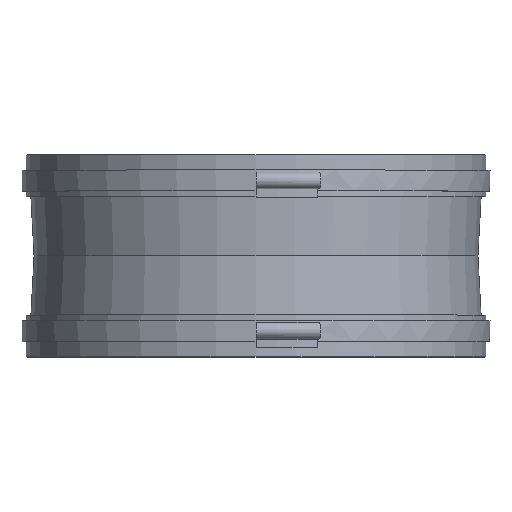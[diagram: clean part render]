
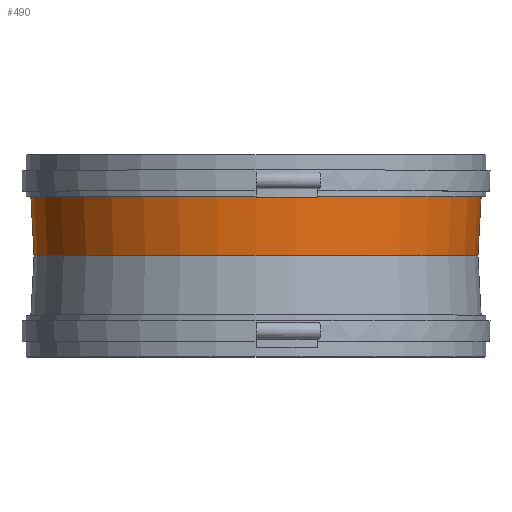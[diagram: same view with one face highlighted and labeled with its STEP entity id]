
A CAD part, top view. The second image highlights one B-rep face of the part: STEP entity #490.
In plain terms, the highlighted conical face has half-angle 3 degrees and reference radius 160.69 mm.
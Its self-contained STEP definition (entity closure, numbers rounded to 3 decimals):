
#17=CONICAL_SURFACE('',#570,160.69,3.);
#39=FACE_BOUND('',#151,.T.);
#93=FACE_OUTER_BOUND('',#150,.T.);
#150=EDGE_LOOP('',(#417));
#151=EDGE_LOOP('',(#418));
#218=CIRCLE('',#556,162.);
#223=CIRCLE('',#569,159.38);
#258=VERTEX_POINT('',#841);
#263=VERTEX_POINT('',#859);
#310=EDGE_CURVE('',#258,#258,#218,.T.);
#315=EDGE_CURVE('',#263,#263,#223,.T.);
#417=ORIENTED_EDGE('',*,*,#315,.T.);
#418=ORIENTED_EDGE('',*,*,#310,.F.);
#490=ADVANCED_FACE('',(#93,#39),#17,.T.);
#556=AXIS2_PLACEMENT_3D('',#842,#701,#702);
#569=AXIS2_PLACEMENT_3D('',#860,#727,#728);
#570=AXIS2_PLACEMENT_3D('',#861,#729,#730);
#701=DIRECTION('center_axis',(0.,1.,0.));
#702=DIRECTION('ref_axis',(1.,0.,0.));
#727=DIRECTION('center_axis',(0.,1.,0.));
#728=DIRECTION('ref_axis',(1.,0.,0.));
#729=DIRECTION('center_axis',(0.,1.,0.));
#730=DIRECTION('ref_axis',(0.,0.,1.));
#841=CARTESIAN_POINT('',(0.,50.,162.));
#842=CARTESIAN_POINT('Origin',(0.,50.,0.));
#859=CARTESIAN_POINT('',(0.,0.,159.38));
#860=CARTESIAN_POINT('Origin',(0.,0.,0.));
#861=CARTESIAN_POINT('Origin',(0.,25.,0.));
